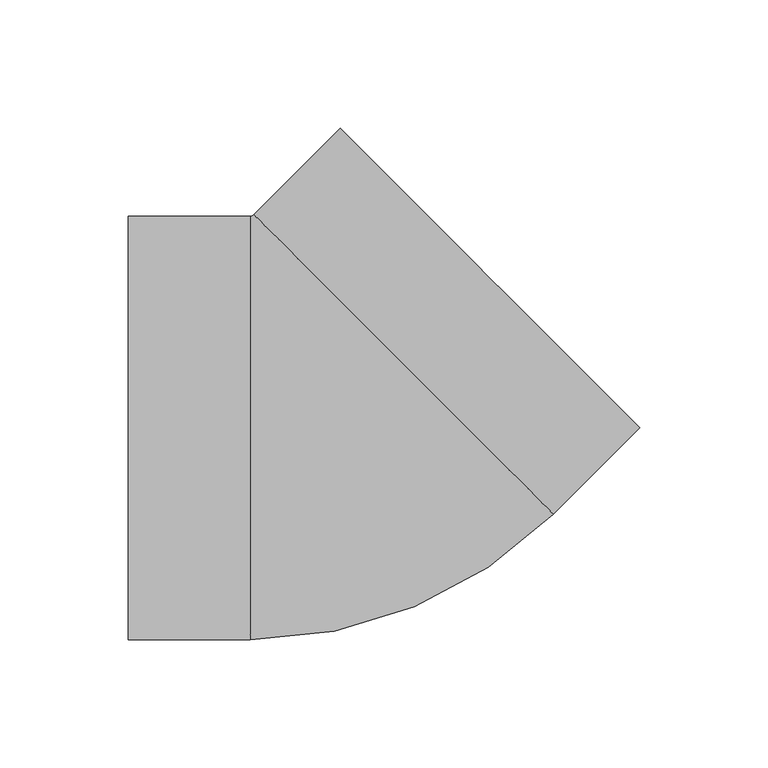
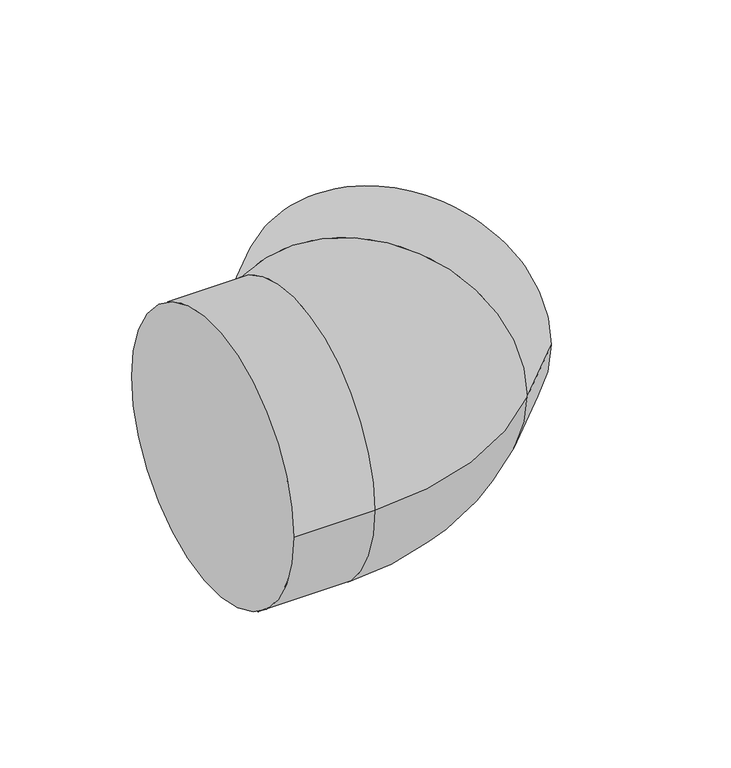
"""IFC4 building model written with IfcOpenShell, lengths in millimetres: pipe fitting geometry, NIRON RED termofusion codo : Estándar."""

import ifcopenshell
import ifcopenshell.guid

model = None  # the IFC model being written
_history = None  # IfcOwnerHistory: only IFC2X3 demands one
_inside = {}  # id of a spatial element -> (the spatial element, [elements in it])
_under = {}  # id of a project, library or spatial element -> (it, [spatial elements below it])
_declared = {}  # id of a project -> (the project, [libraries it declares])
_typed = {}  # id of a type object -> (the type object, [elements of that type])
_made_of = {}  # id of a material, layer set ... -> (it, [elements and type objects made of it])


def new_model(schema):
    """Start an empty IFC model of exactly this schema.

    Asked for "IFC4X3", IfcOpenShell would pick the latest addendum, in which some entities
    have other attributes; the version numbers below select the first issue.
    IFC2X3 requires an IfcOwnerHistory on every rooted entity: one is made here for all.
    """
    global model, _history
    if schema == "IFC4X3":
        model = ifcopenshell.file(schema_version=(4, 3, 0, 0))
    else:
        model = ifcopenshell.file(schema=schema)
    _inside.clear()
    _under.clear()
    _declared.clear()
    _typed.clear()
    _made_of.clear()
    _history = None
    if model.schema == "IFC2X3":
        org = make("IfcOrganization", Name="unknown")
        user = make(
            "IfcPersonAndOrganization",
            ThePerson=make("IfcPerson", FamilyName="unknown"),
            TheOrganization=org,
        )
        app = make(
            "IfcApplication",
            ApplicationDeveloper=org,
            Version="unknown",
            ApplicationFullName="unknown",
            ApplicationIdentifier="unknown",
        )
        _history = make(
            "IfcOwnerHistory",
            OwningUser=user,
            OwningApplication=app,
            ChangeAction="ADDED",
            CreationDate=0,
        )
    return model


def make(cls, **values):
    """One entity of the class cls with the attributes given. An attribute that is None is left unset."""
    return model.create_entity(
        cls, **{name: value for name, value in values.items() if value is not None}
    )


def rooted(cls, **values):
    """An entity with a GlobalId (a new one), such as an element, a storey or a relation."""
    return make(cls, GlobalId=ifcopenshell.guid.new(), OwnerHistory=_history, **values)


def si_unit(unit_type, name, prefix=None):
    """IfcSIUnit, for example si_unit("LENGTHUNIT", "METRE", prefix="MILLI")."""
    return make("IfcSIUnit", UnitType=unit_type, Prefix=prefix, Name=name)


def assignment(units):
    """IfcUnitAssignment: the units of a project."""
    return None if units is None else make("IfcUnitAssignment", Units=units)


def point(xyz):
    """IfcCartesianPoint."""
    return None if xyz is None else make("IfcCartesianPoint", Coordinates=xyz)


def direction(xyz):
    """IfcDirection."""
    return None if xyz is None else make("IfcDirection", DirectionRatios=xyz)


def frame(location, z_axis=None, x_axis=None):
    """IfcAxis2Placement3D, a coordinate frame: its origin and axes. An axis left out is left unset."""
    return make(
        "IfcAxis2Placement3D",
        Location=point(location),
        Axis=direction(z_axis),
        RefDirection=direction(x_axis),
    )


def origin():
    """The frame at (0, 0, 0) with its axes left unset."""
    return frame((0.0, 0.0, 0.0))


def place(relative_to, where):
    """IfcLocalPlacement: puts the frame where relative to a parent placement (None: the world)."""
    return make(
        "IfcLocalPlacement", PlacementRelTo=relative_to, RelativePlacement=where
    )


def context(
    kind, dimensions, precision=None, world=None, true_north=None, identifier=None
):
    """IfcGeometricRepresentationContext, for example the 3D "Model" context."""
    return make(
        "IfcGeometricRepresentationContext",
        ContextIdentifier=identifier,
        ContextType=kind,
        CoordinateSpaceDimension=dimensions,
        Precision=precision,
        WorldCoordinateSystem=world,
        TrueNorth=true_north,
    )


def project(units=None, contexts=None):
    """IfcProject with its units and contexts."""
    return rooted(
        "IfcProject",
        Name="project",
        RepresentationContexts=contexts,
        UnitsInContext=assignment(units),
    )


def spatial(cls, under=None, at=None, **own):
    """A site, building, storey or space (cls), placed at a placement, below another one or the project."""
    s = rooted(cls, ObjectPlacement=at, **own)
    if under is not None:
        _under.setdefault(under.id(), (under, []))[1].append(s)
    return s


def circle_curve(where, radius):
    """IfcCircle in the frame where."""
    return make("IfcCircle", Position=where, Radius=radius)


def ellipse_curve(where, semi_axis1, semi_axis2):
    """IfcEllipse in the frame where."""
    return make(
        "IfcEllipse", Position=where, SemiAxis1=semi_axis1, SemiAxis2=semi_axis2
    )


def trimmed(basis, trim1, trim2, sense, master):
    """IfcTrimmedCurve: the piece of a basis curve between two trims."""
    return make(
        "IfcTrimmedCurve",
        BasisCurve=basis,
        Trim1=trim1,
        Trim2=trim2,
        SenseAgreement=sense,
        MasterRepresentation=master,
    )


def shape(context_of_items, identifier, shape_type, items):
    """IfcShapeRepresentation: the items that make up one representation, for example the "Body"."""
    return make(
        "IfcShapeRepresentation",
        ContextOfItems=context_of_items,
        RepresentationIdentifier=identifier,
        RepresentationType=shape_type,
        Items=items,
    )


def source(mapping_origin, context_of_items, identifier, shape_type, items):
    """IfcRepresentationMap: a shape defined once, which mapped items show again and again."""
    return make(
        "IfcRepresentationMap",
        MappingOrigin=mapping_origin,
        MappedRepresentation=shape(context_of_items, identifier, shape_type, items),
    )


def transform(
    local_origin,
    x_axis=None,
    y_axis=None,
    z_axis=None,
    scale=None,
    scale2=None,
    scale3=None,
    uniform=True,
):
    """IfcCartesianTransformationOperator3D, or its non-uniform kind. x_axis, y_axis, z_axis: its Axis1, 2, 3."""
    if uniform:
        return make(
            "IfcCartesianTransformationOperator3D",
            Axis1=direction(x_axis),
            Axis2=direction(y_axis),
            LocalOrigin=point(local_origin),
            Scale=scale,
            Axis3=direction(z_axis),
        )
    return make(
        "IfcCartesianTransformationOperator3DnonUniform",
        Axis1=direction(x_axis),
        Axis2=direction(y_axis),
        LocalOrigin=point(local_origin),
        Scale=scale,
        Axis3=direction(z_axis),
        Scale2=scale2,
        Scale3=scale3,
    )


def mapped(mapping_source, mapping_target):
    """IfcMappedItem: shows the shape of a source again, moved by a transform."""
    return make(
        "IfcMappedItem", MappingSource=mapping_source, MappingTarget=mapping_target
    )


def made_of(thing, what):
    """Note that an element or type object is made of a material, layer set ...; save() writes the relation."""
    if what is not None:
        _made_of.setdefault(what.id(), (what, []))[1].append(thing)
    return thing


def element(
    cls,
    number,
    at=None,
    inside=None,
    cuts=None,
    type_object=None,
    material=None,
    context=None,
    identifier="Body",
    shape_type=None,
    held_by="IfcProductDefinitionShape",
    body=None,
    shapes=None,
    **own,
):
    """One element of the class cls, such as IfcWall. Its Tag is "e" and its number.

    at: its placement. inside: the storey or other place that contains it. cuts: it is an
    opening in that element (IfcRelVoidsElement). A single representation is given by context,
    identifier, shape_type and body (its items); several are given by shapes. held_by: the class
    of the entity that holds the representations. save() writes the other relations.
    """
    e = rooted(cls, Tag="e%d" % number, ObjectPlacement=at, **own)
    if body is not None:
        shapes = [shape(context, identifier, shape_type, body)]
    if shapes is not None:
        e.Representation = make(held_by, Representations=shapes)
    if inside is not None:
        _inside.setdefault(inside.id(), (inside, []))[1].append(e)
    if cuts is not None:
        rooted(
            "IfcRelVoidsElement", RelatingBuildingElement=cuts, RelatedOpeningElement=e
        )
    if type_object is not None:
        _typed.setdefault(type_object.id(), (type_object, []))[1].append(e)
    return made_of(e, material)


def aggregate(whole, parts):
    """IfcRelAggregates: a whole, such as a stair, and the parts it consists of."""
    return rooted("IfcRelAggregates", RelatingObject=whole, RelatedObjects=parts)


def save(model, path):
    """Write the relations noted so far, then the file.

    IfcRelAggregates (storeys below a building ...), IfcRelContainedInSpatialStructure (elements
    in a storey), IfcRelDefinesByType, IfcRelAssociatesMaterial and IfcRelDeclares: one each for
    every whole, place, type object, material and project.
    """
    for whole, parts in _under.values():
        aggregate(whole, parts)
    for where, things in _inside.values():
        rooted(
            "IfcRelContainedInSpatialStructure",
            RelatedElements=things,
            RelatingStructure=where,
        )
    for kind, things in _typed.values():
        rooted("IfcRelDefinesByType", RelatedObjects=things, RelatingType=kind)
    for what, things in _made_of.values():
        rooted("IfcRelAssociatesMaterial", RelatedObjects=things, RelatingMaterial=what)
    for by, libraries in _declared.values():
        rooted("IfcRelDeclares", RelatingContext=by, RelatedDefinitions=libraries)
    model.write(path)


def plane_surface(at):
    """IfcPlane: the flat surface through the origin of the frame at, square to its z axis."""
    return make("IfcPlane", Position=at)


def cylinder_surface(at, radius):
    """IfcCylindricalSurface: all points at the distance radius from the z axis of the frame at."""
    return make("IfcCylindricalSurface", Position=at, Radius=radius)


def revolved_surface(curve, axis_point, axis_direction):
    """IfcSurfaceOfRevolution: the curve turned about the line through axis_point along axis_direction."""
    return make(
        "IfcSurfaceOfRevolution",
        SweptCurve=make("IfcArbitraryOpenProfileDef", ProfileType="CURVE", Curve=curve),
        AxisPosition=make("IfcAxis1Placement", Location=point(axis_point), Axis=direction(axis_direction)),
    )


def advanced_brep(points, edges, surfaces, faces):
    """IfcAdvancedBrep: a solid bounded by faces that lie on surfaces and meet in shared edges.

    An edge is (start, end): straight between two places in points (the first is 0);
    or (start, end, curve); or (start, end, curve, False) where it runs against its curve.
    A face is (place in surfaces, loops), or (place, loops, False) where it looks against
    its surface's normal. A loop lists edges by number (the first is 1), with a minus sign
    where the edge is run from its end to its start. The first loop is the outer one.
    """
    corners = [point(p) for p in points]
    vertices = [make("IfcVertexPoint", VertexGeometry=c) for c in corners]
    made = []
    for start, end, *more in edges:
        made.append(
            make(
                "IfcEdgeCurve",
                EdgeStart=vertices[start],
                EdgeEnd=vertices[end],
                EdgeGeometry=more[0] if more else make("IfcPolyline", Points=[corners[start], corners[end]]),
                SameSense=more[1] if len(more) > 1 else True,
            )
        )
    hull = []
    for where, loops, *sense in faces:
        bounds = []
        for j, loop in enumerate(loops):
            ring = [make("IfcOrientedEdge", EdgeElement=made[abs(k) - 1], Orientation=k > 0) for k in loop]
            bounds.append(
                make(
                    "IfcFaceOuterBound" if j == 0 else "IfcFaceBound",
                    Bound=make("IfcEdgeLoop", EdgeList=ring),
                    Orientation=True,
                )
            )
        hull.append(make("IfcAdvancedFace", Bounds=bounds, FaceSurface=surfaces[where], SameSense=sense[0] if sense else True))
    return make("IfcAdvancedBrep", Outer=make("IfcClosedShell", CfsFaces=hull))


def pipe_fitting_32922d83(model_context):
    return source(origin(), model_context, "Body", "AdvancedBrep", [
        advanced_brep(
        [(-82.5663689, -82.5, 0.0), (-82.5663689, 82.5, 0.0), (-34.9663689, -82.5, 0.0), (-34.9663689, 82.5, 0.0), (-33.6113529, 83.061266, 0.0), (83.061266, -33.6113529, 0.0), (24.7249566, 24.7249566, 82.5), (24.7249566, 24.7249566, -82.5), (116.7195488, 0.0469299, 0.0), (0.0469299, 116.7195488, 0.0)],
        [
            (0, 1, circle_curve(frame((-82.5663689, 0.0, 0.0), z_axis=(-1.0, 0.0, 0.0), x_axis=(0.0, 1.0, 0.0)), 82.5)),
            (1, 0, circle_curve(frame((-82.5663689, 0.0, 0.0), z_axis=(-1.0, 0.0, 0.0), x_axis=(0.0, 1.0, 0.0)), 82.5)),
            (0, 2),
            (2, 3, circle_curve(frame((-34.9663689, 0.0, 0.0), z_axis=(-1.0, 0.0, 0.0), x_axis=(0.0, 1.0, 0.0)), 82.5)),
            (3, 1),
            (3, 2, circle_curve(frame((-34.9663689, 0.0, 0.0), z_axis=(-1.0, 0.0, 0.0), x_axis=(0.0, 1.0, 0.0)), 82.5)),
            (4, 3, circle_curve(frame((-34.9663689, 84.416282, 0.0), z_axis=(0.0, 0.0, -1.0), x_axis=(0.0, -1.0, 0.0)), 1.916282)),
            (2, 5, circle_curve(frame((-34.9663689, 84.416282, 0.0), z_axis=(0.0, 0.0, 1.0), x_axis=(0.0, -1.0, 0.0)), 166.916282)),
            (5, 6, circle_curve(frame((24.7249566, 24.7249566, 0.0), z_axis=(-0.7071067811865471, -0.7071067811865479, 0.0), x_axis=(-0.7071067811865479, 0.7071067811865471, 0.0)), 82.5)),
            (6, 4, circle_curve(frame((24.7249566, 24.7249566, 0.0), z_axis=(-0.7071067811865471, -0.7071067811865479, 0.0), x_axis=(-0.7071067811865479, 0.7071067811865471, 0.0)), 82.5)),
            (4, 7, circle_curve(frame((24.7249566, 24.7249566, 0.0), z_axis=(-0.7071067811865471, -0.7071067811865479, 0.0), x_axis=(-0.7071067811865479, 0.7071067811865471, 0.0)), 82.5)),
            (7, 5, circle_curve(frame((24.7249566, 24.7249566, 0.0), z_axis=(-0.7071067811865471, -0.7071067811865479, 0.0), x_axis=(-0.7071067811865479, 0.7071067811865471, 0.0)), 82.5)),
            (8, 9, circle_curve(frame((58.3832393, 58.3832393, 0.0), z_axis=(0.7071067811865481, 0.7071067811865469, 0.0), x_axis=(-0.7071067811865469, 0.7071067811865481, 0.0)), 82.5)),
            (9, 8, circle_curve(frame((58.3832393, 58.3832393, 0.0), z_axis=(0.7071067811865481, 0.7071067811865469, 0.0), x_axis=(-0.7071067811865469, 0.7071067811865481, 0.0)), 82.5)),
            (9, 4),
            (5, 8),
        ],
        [
            plane_surface(frame((-82.5663689, 0.0, 0.0), z_axis=(-1.0, 0.0, 0.0), x_axis=(0.0, 0.0, 1.0))),
            cylinder_surface(frame((-82.5663689, 0.0, 0.0), z_axis=(-1.0, 0.0, 0.0), x_axis=(0.0, 1.0, 0.0)), 82.5),
            revolved_surface(trimmed(ellipse_curve(frame((-34.9663689, 0.0, 0.0), z_axis=(-1.0, 0.0, 0.0), x_axis=(0.0, 1.0, 0.0)), 82.5, 82.5), [point((-34.9663689, -82.5, 0.0))], [point((-34.9663689, 82.5, 0.0))], True, "CARTESIAN"), (-34.9663689, 84.416282, 0.0), (0.0, 0.0, 1.0)),
            revolved_surface(trimmed(ellipse_curve(frame((-34.9663689, 0.0, 0.0), z_axis=(-1.0, 0.0, 0.0), x_axis=(0.0, 1.0, 0.0)), 82.5, 82.5), [point((-34.9663689, 82.5, 0.0))], [point((-34.9663689, -82.5, 0.0))], True, "CARTESIAN"), (-34.9663689, 84.416282, 0.0), (0.0, 0.0, 1.0)),
            plane_surface(frame((58.3832393, 58.3832393, 0.0), z_axis=(0.7071067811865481, 0.7071067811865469, 0.0), x_axis=(0.0, 0.0, 1.0))),
            cylinder_surface(frame((24.7249566, 24.7249566, 0.0), z_axis=(-0.7071067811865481, -0.7071067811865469, 0.0), x_axis=(-0.7071067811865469, 0.7071067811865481, 0.0)), 82.5),
        ],
        [
            (0, [[1, 2]]),
            (1, [[-1, 3, 4, 5]]),
            (1, [[-2, -5, 6, -3]]),
            (2, [[7, -4, 8, 9, 10]]),
            (3, [[-7, 11, 12, -8, -6]]),
            (4, [[13, 14]]),
            (5, [[-14, 15, -10, -9, 16]]),
            (5, [[-13, -16, -12, -11, -15]]),
        ],
    ),
    ])


if __name__ == "__main__":
    model = new_model("IFC4")
    model_context = context("Model", 3, world=origin())
    ifc_project = project(units=[si_unit("LENGTHUNIT", "METRE", prefix="MILLI")], contexts=[model_context])
    site = spatial("IfcSite", under=ifc_project)
    building = spatial("IfcBuilding", under=site)
    placement = place(None, origin())
    pipe_fitting_shape = pipe_fitting_32922d83(model_context)
    element("IfcPipeFitting", 1, ObjectType="NIRON RED termofusion codo : Estándar", at=placement, inside=building, context=model_context, shape_type="MappedRepresentation", body=[
        mapped(pipe_fitting_shape, transform((0.0, 0.0, 0.0), x_axis=(1.0, 0.0, 0.0), y_axis=(0.0, 1.0, 0.0), z_axis=(0.0, 0.0, 1.0))),
    ])
    save(model, "model.ifc")
